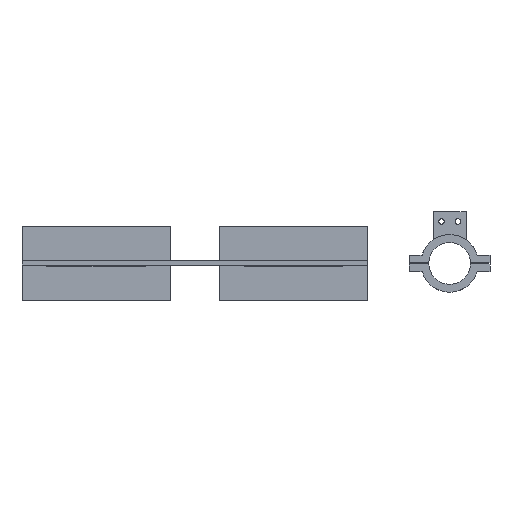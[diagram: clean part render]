
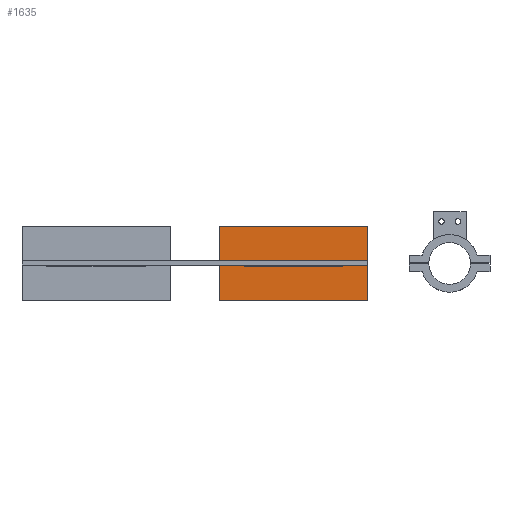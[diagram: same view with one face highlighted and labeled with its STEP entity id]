
A CAD part, top view. The second image highlights one B-rep face of the part: STEP entity #1635.
In plain terms, the highlighted planar face has unit normal (0, 0, 1).
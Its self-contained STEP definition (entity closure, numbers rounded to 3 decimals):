
#1446 = VERTEX_POINT('',#1447);
#1447 = CARTESIAN_POINT('',(15.,-22.5,15.));
#1454 = PLANE('',#1455);
#1455 = AXIS2_PLACEMENT_3D('',#1456,#1457,#1458);
#1456 = CARTESIAN_POINT('',(15.,-22.5,0.));
#1457 = DIRECTION('',(1.,0.,0.));
#1458 = DIRECTION('',(0.,0.,1.));
#1466 = PLANE('',#1467);
#1467 = AXIS2_PLACEMENT_3D('',#1468,#1469,#1470);
#1468 = CARTESIAN_POINT('',(15.,-22.5,0.));
#1469 = DIRECTION('',(0.,1.,0.));
#1470 = DIRECTION('',(0.,-0.,1.));
#1507 = VERTEX_POINT('',#1508);
#1508 = CARTESIAN_POINT('',(15.,22.5,15.));
#1522 = PLANE('',#1523);
#1523 = AXIS2_PLACEMENT_3D('',#1524,#1525,#1526);
#1524 = CARTESIAN_POINT('',(15.,22.5,0.));
#1525 = DIRECTION('',(0.,1.,0.));
#1526 = DIRECTION('',(0.,-0.,1.));
#1534 = EDGE_CURVE('',#1446,#1507,#1535,.T.);
#1535 = SURFACE_CURVE('',#1536,(#1540,#1547),.PCURVE_S1.);
#1536 = LINE('',#1537,#1538);
#1537 = CARTESIAN_POINT('',(15.,-22.5,15.));
#1538 = VECTOR('',#1539,1.);
#1539 = DIRECTION('',(0.,1.,0.));
#1540 = PCURVE('',#1454,#1541);
#1541 = DEFINITIONAL_REPRESENTATION('',(#1542),#1546);
#1542 = LINE('',#1543,#1544);
#1543 = CARTESIAN_POINT('',(15.,0.));
#1544 = VECTOR('',#1545,1.);
#1545 = DIRECTION('',(0.,-1.));
#1546 = ( GEOMETRIC_REPRESENTATION_CONTEXT(2) 
PARAMETRIC_REPRESENTATION_CONTEXT() REPRESENTATION_CONTEXT('2D SPACE',''
  ) );
#1547 = PCURVE('',#1548,#1553);
#1548 = PLANE('',#1549);
#1549 = AXIS2_PLACEMENT_3D('',#1550,#1551,#1552);
#1550 = CARTESIAN_POINT('',(15.,-22.5,15.));
#1551 = DIRECTION('',(0.,0.,1.));
#1552 = DIRECTION('',(1.,0.,-0.));
#1553 = DEFINITIONAL_REPRESENTATION('',(#1554),#1558);
#1554 = LINE('',#1555,#1556);
#1555 = CARTESIAN_POINT('',(0.,0.));
#1556 = VECTOR('',#1557,1.);
#1557 = DIRECTION('',(0.,1.));
#1558 = ( GEOMETRIC_REPRESENTATION_CONTEXT(2) 
PARAMETRIC_REPRESENTATION_CONTEXT() REPRESENTATION_CONTEXT('2D SPACE',''
  ) );
#1587 = EDGE_CURVE('',#1446,#1588,#1590,.T.);
#1588 = VERTEX_POINT('',#1589);
#1589 = CARTESIAN_POINT('',(105.,-22.5,15.));
#1590 = SURFACE_CURVE('',#1591,(#1595,#1602),.PCURVE_S1.);
#1591 = LINE('',#1592,#1593);
#1592 = CARTESIAN_POINT('',(15.,-22.5,15.));
#1593 = VECTOR('',#1594,1.);
#1594 = DIRECTION('',(1.,0.,0.));
#1595 = PCURVE('',#1466,#1596);
#1596 = DEFINITIONAL_REPRESENTATION('',(#1597),#1601);
#1597 = LINE('',#1598,#1599);
#1598 = CARTESIAN_POINT('',(15.,0.));
#1599 = VECTOR('',#1600,1.);
#1600 = DIRECTION('',(0.,1.));
#1601 = ( GEOMETRIC_REPRESENTATION_CONTEXT(2) 
PARAMETRIC_REPRESENTATION_CONTEXT() REPRESENTATION_CONTEXT('2D SPACE',''
  ) );
#1602 = PCURVE('',#1548,#1603);
#1603 = DEFINITIONAL_REPRESENTATION('',(#1604),#1608);
#1604 = LINE('',#1605,#1606);
#1605 = CARTESIAN_POINT('',(0.,0.));
#1606 = VECTOR('',#1607,1.);
#1607 = DIRECTION('',(1.,0.));
#1608 = ( GEOMETRIC_REPRESENTATION_CONTEXT(2) 
PARAMETRIC_REPRESENTATION_CONTEXT() REPRESENTATION_CONTEXT('2D SPACE',''
  ) );
#1624 = PLANE('',#1625);
#1625 = AXIS2_PLACEMENT_3D('',#1626,#1627,#1628);
#1626 = CARTESIAN_POINT('',(105.,-22.5,0.));
#1627 = DIRECTION('',(1.,0.,0.));
#1628 = DIRECTION('',(0.,0.,1.));
#1635 = ADVANCED_FACE('',(#1636,#1684),#1548,.T.);
#1636 = FACE_BOUND('',#1637,.T.);
#1637 = EDGE_LOOP('',(#1638,#1639,#1640,#1663));
#1638 = ORIENTED_EDGE('',*,*,#1534,.F.);
#1639 = ORIENTED_EDGE('',*,*,#1587,.T.);
#1640 = ORIENTED_EDGE('',*,*,#1641,.T.);
#1641 = EDGE_CURVE('',#1588,#1642,#1644,.T.);
#1642 = VERTEX_POINT('',#1643);
#1643 = CARTESIAN_POINT('',(105.,22.5,15.));
#1644 = SURFACE_CURVE('',#1645,(#1649,#1656),.PCURVE_S1.);
#1645 = LINE('',#1646,#1647);
#1646 = CARTESIAN_POINT('',(105.,-22.5,15.));
#1647 = VECTOR('',#1648,1.);
#1648 = DIRECTION('',(0.,1.,0.));
#1649 = PCURVE('',#1548,#1650);
#1650 = DEFINITIONAL_REPRESENTATION('',(#1651),#1655);
#1651 = LINE('',#1652,#1653);
#1652 = CARTESIAN_POINT('',(90.,0.));
#1653 = VECTOR('',#1654,1.);
#1654 = DIRECTION('',(0.,1.));
#1655 = ( GEOMETRIC_REPRESENTATION_CONTEXT(2) 
PARAMETRIC_REPRESENTATION_CONTEXT() REPRESENTATION_CONTEXT('2D SPACE',''
  ) );
#1656 = PCURVE('',#1624,#1657);
#1657 = DEFINITIONAL_REPRESENTATION('',(#1658),#1662);
#1658 = LINE('',#1659,#1660);
#1659 = CARTESIAN_POINT('',(15.,0.));
#1660 = VECTOR('',#1661,1.);
#1661 = DIRECTION('',(0.,-1.));
#1662 = ( GEOMETRIC_REPRESENTATION_CONTEXT(2) 
PARAMETRIC_REPRESENTATION_CONTEXT() REPRESENTATION_CONTEXT('2D SPACE',''
  ) );
#1663 = ORIENTED_EDGE('',*,*,#1664,.F.);
#1664 = EDGE_CURVE('',#1507,#1642,#1665,.T.);
#1665 = SURFACE_CURVE('',#1666,(#1670,#1677),.PCURVE_S1.);
#1666 = LINE('',#1667,#1668);
#1667 = CARTESIAN_POINT('',(15.,22.5,15.));
#1668 = VECTOR('',#1669,1.);
#1669 = DIRECTION('',(1.,0.,0.));
#1670 = PCURVE('',#1548,#1671);
#1671 = DEFINITIONAL_REPRESENTATION('',(#1672),#1676);
#1672 = LINE('',#1673,#1674);
#1673 = CARTESIAN_POINT('',(0.,45.));
#1674 = VECTOR('',#1675,1.);
#1675 = DIRECTION('',(1.,0.));
#1676 = ( GEOMETRIC_REPRESENTATION_CONTEXT(2) 
PARAMETRIC_REPRESENTATION_CONTEXT() REPRESENTATION_CONTEXT('2D SPACE',''
  ) );
#1677 = PCURVE('',#1522,#1678);
#1678 = DEFINITIONAL_REPRESENTATION('',(#1679),#1683);
#1679 = LINE('',#1680,#1681);
#1680 = CARTESIAN_POINT('',(15.,0.));
#1681 = VECTOR('',#1682,1.);
#1682 = DIRECTION('',(0.,1.));
#1683 = ( GEOMETRIC_REPRESENTATION_CONTEXT(2) 
PARAMETRIC_REPRESENTATION_CONTEXT() REPRESENTATION_CONTEXT('2D SPACE',''
  ) );
#1684 = FACE_BOUND('',#1685,.T.);
#1685 = EDGE_LOOP('',(#1686,#1716,#1744,#1772));
#1686 = ORIENTED_EDGE('',*,*,#1687,.T.);
#1687 = EDGE_CURVE('',#1688,#1690,#1692,.T.);
#1688 = VERTEX_POINT('',#1689);
#1689 = CARTESIAN_POINT('',(90.,-1.75,15.));
#1690 = VERTEX_POINT('',#1691);
#1691 = CARTESIAN_POINT('',(30.,-1.75,15.));
#1692 = SURFACE_CURVE('',#1693,(#1697,#1704),.PCURVE_S1.);
#1693 = LINE('',#1694,#1695);
#1694 = CARTESIAN_POINT('',(22.5,-1.75,15.));
#1695 = VECTOR('',#1696,1.);
#1696 = DIRECTION('',(-1.,0.,0.));
#1697 = PCURVE('',#1548,#1698);
#1698 = DEFINITIONAL_REPRESENTATION('',(#1699),#1703);
#1699 = LINE('',#1700,#1701);
#1700 = CARTESIAN_POINT('',(7.5,20.75));
#1701 = VECTOR('',#1702,1.);
#1702 = DIRECTION('',(-1.,0.));
#1703 = ( GEOMETRIC_REPRESENTATION_CONTEXT(2) 
PARAMETRIC_REPRESENTATION_CONTEXT() REPRESENTATION_CONTEXT('2D SPACE',''
  ) );
#1704 = PCURVE('',#1705,#1710);
#1705 = PLANE('',#1706);
#1706 = AXIS2_PLACEMENT_3D('',#1707,#1708,#1709);
#1707 = CARTESIAN_POINT('',(30.,-1.75,3.));
#1708 = DIRECTION('',(0.,1.,0.));
#1709 = DIRECTION('',(0.,-0.,1.));
#1710 = DEFINITIONAL_REPRESENTATION('',(#1711),#1715);
#1711 = LINE('',#1712,#1713);
#1712 = CARTESIAN_POINT('',(12.,-7.5));
#1713 = VECTOR('',#1714,1.);
#1714 = DIRECTION('',(0.,-1.));
#1715 = ( GEOMETRIC_REPRESENTATION_CONTEXT(2) 
PARAMETRIC_REPRESENTATION_CONTEXT() REPRESENTATION_CONTEXT('2D SPACE',''
  ) );
#1716 = ORIENTED_EDGE('',*,*,#1717,.T.);
#1717 = EDGE_CURVE('',#1690,#1718,#1720,.T.);
#1718 = VERTEX_POINT('',#1719);
#1719 = CARTESIAN_POINT('',(30.,1.75,15.));
#1720 = SURFACE_CURVE('',#1721,(#1725,#1732),.PCURVE_S1.);
#1721 = LINE('',#1722,#1723);
#1722 = CARTESIAN_POINT('',(30.,-12.125,15.));
#1723 = VECTOR('',#1724,1.);
#1724 = DIRECTION('',(0.,1.,0.));
#1725 = PCURVE('',#1548,#1726);
#1726 = DEFINITIONAL_REPRESENTATION('',(#1727),#1731);
#1727 = LINE('',#1728,#1729);
#1728 = CARTESIAN_POINT('',(15.,10.375));
#1729 = VECTOR('',#1730,1.);
#1730 = DIRECTION('',(0.,1.));
#1731 = ( GEOMETRIC_REPRESENTATION_CONTEXT(2) 
PARAMETRIC_REPRESENTATION_CONTEXT() REPRESENTATION_CONTEXT('2D SPACE',''
  ) );
#1732 = PCURVE('',#1733,#1738);
#1733 = PLANE('',#1734);
#1734 = AXIS2_PLACEMENT_3D('',#1735,#1736,#1737);
#1735 = CARTESIAN_POINT('',(30.,-1.75,3.));
#1736 = DIRECTION('',(1.,0.,0.));
#1737 = DIRECTION('',(0.,0.,1.));
#1738 = DEFINITIONAL_REPRESENTATION('',(#1739),#1743);
#1739 = LINE('',#1740,#1741);
#1740 = CARTESIAN_POINT('',(12.,10.375));
#1741 = VECTOR('',#1742,1.);
#1742 = DIRECTION('',(0.,-1.));
#1743 = ( GEOMETRIC_REPRESENTATION_CONTEXT(2) 
PARAMETRIC_REPRESENTATION_CONTEXT() REPRESENTATION_CONTEXT('2D SPACE',''
  ) );
#1744 = ORIENTED_EDGE('',*,*,#1745,.F.);
#1745 = EDGE_CURVE('',#1746,#1718,#1748,.T.);
#1746 = VERTEX_POINT('',#1747);
#1747 = CARTESIAN_POINT('',(90.,1.75,15.));
#1748 = SURFACE_CURVE('',#1749,(#1753,#1760),.PCURVE_S1.);
#1749 = LINE('',#1750,#1751);
#1750 = CARTESIAN_POINT('',(22.5,1.75,15.));
#1751 = VECTOR('',#1752,1.);
#1752 = DIRECTION('',(-1.,0.,0.));
#1753 = PCURVE('',#1548,#1754);
#1754 = DEFINITIONAL_REPRESENTATION('',(#1755),#1759);
#1755 = LINE('',#1756,#1757);
#1756 = CARTESIAN_POINT('',(7.5,24.25));
#1757 = VECTOR('',#1758,1.);
#1758 = DIRECTION('',(-1.,0.));
#1759 = ( GEOMETRIC_REPRESENTATION_CONTEXT(2) 
PARAMETRIC_REPRESENTATION_CONTEXT() REPRESENTATION_CONTEXT('2D SPACE',''
  ) );
#1760 = PCURVE('',#1761,#1766);
#1761 = PLANE('',#1762);
#1762 = AXIS2_PLACEMENT_3D('',#1763,#1764,#1765);
#1763 = CARTESIAN_POINT('',(30.,1.75,3.));
#1764 = DIRECTION('',(0.,1.,0.));
#1765 = DIRECTION('',(0.,-0.,1.));
#1766 = DEFINITIONAL_REPRESENTATION('',(#1767),#1771);
#1767 = LINE('',#1768,#1769);
#1768 = CARTESIAN_POINT('',(12.,-7.5));
#1769 = VECTOR('',#1770,1.);
#1770 = DIRECTION('',(0.,-1.));
#1771 = ( GEOMETRIC_REPRESENTATION_CONTEXT(2) 
PARAMETRIC_REPRESENTATION_CONTEXT() REPRESENTATION_CONTEXT('2D SPACE',''
  ) );
#1772 = ORIENTED_EDGE('',*,*,#1773,.F.);
#1773 = EDGE_CURVE('',#1688,#1746,#1774,.T.);
#1774 = SURFACE_CURVE('',#1775,(#1779,#1786),.PCURVE_S1.);
#1775 = LINE('',#1776,#1777);
#1776 = CARTESIAN_POINT('',(90.,-12.125,15.));
#1777 = VECTOR('',#1778,1.);
#1778 = DIRECTION('',(0.,1.,0.));
#1779 = PCURVE('',#1548,#1780);
#1780 = DEFINITIONAL_REPRESENTATION('',(#1781),#1785);
#1781 = LINE('',#1782,#1783);
#1782 = CARTESIAN_POINT('',(75.,10.375));
#1783 = VECTOR('',#1784,1.);
#1784 = DIRECTION('',(0.,1.));
#1785 = ( GEOMETRIC_REPRESENTATION_CONTEXT(2) 
PARAMETRIC_REPRESENTATION_CONTEXT() REPRESENTATION_CONTEXT('2D SPACE',''
  ) );
#1786 = PCURVE('',#1787,#1792);
#1787 = PLANE('',#1788);
#1788 = AXIS2_PLACEMENT_3D('',#1789,#1790,#1791);
#1789 = CARTESIAN_POINT('',(90.,-1.75,3.));
#1790 = DIRECTION('',(1.,0.,0.));
#1791 = DIRECTION('',(0.,0.,1.));
#1792 = DEFINITIONAL_REPRESENTATION('',(#1793),#1797);
#1793 = LINE('',#1794,#1795);
#1794 = CARTESIAN_POINT('',(12.,10.375));
#1795 = VECTOR('',#1796,1.);
#1796 = DIRECTION('',(0.,-1.));
#1797 = ( GEOMETRIC_REPRESENTATION_CONTEXT(2) 
PARAMETRIC_REPRESENTATION_CONTEXT() REPRESENTATION_CONTEXT('2D SPACE',''
  ) );
